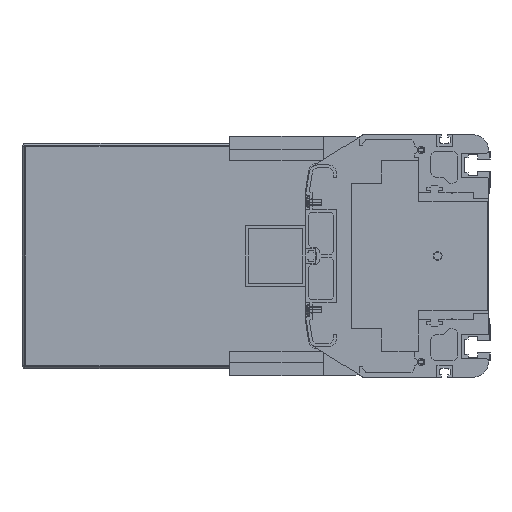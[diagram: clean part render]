
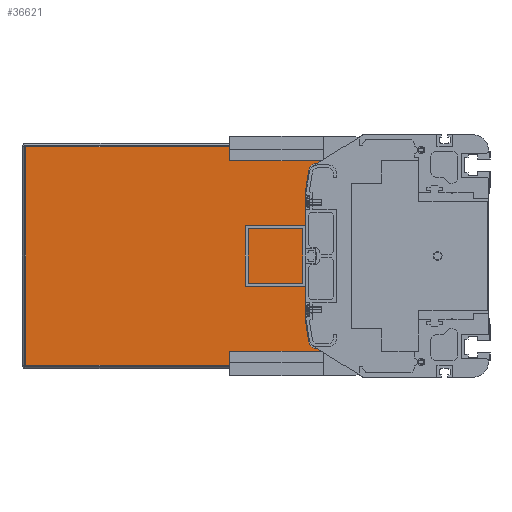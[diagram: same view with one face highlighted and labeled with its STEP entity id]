
A CAD part, left-side view. The second image highlights one B-rep face of the part: STEP entity #36621.
In plain terms, the highlighted planar face has unit normal (-1, 0, 0).
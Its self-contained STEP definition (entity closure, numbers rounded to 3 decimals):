
#3034=DIRECTION('',(0.,0.,-1.));
#3035=VECTOR('',#3034,11.);
#3036=CARTESIAN_POINT('',(3786.5,86.,-61.));
#3037=LINE('',#3036,#3035);
#3043=DIRECTION('',(0.,0.,-1.));
#3044=VECTOR('',#3043,11.);
#3045=CARTESIAN_POINT('',(3786.5,86.,72.));
#3046=LINE('',#3045,#3044);
#3056=DIRECTION('',(0.,-1.,0.));
#3057=VECTOR('',#3056,220.5);
#3058=CARTESIAN_POINT('',(3786.5,306.5,-72.));
#3059=LINE('',#3058,#3057);
#8426=DIRECTION('',(0.,1.,0.));
#8427=VECTOR('',#8426,28.728);
#8428=CARTESIAN_POINT('',(3786.5,86.,-61.));
#8429=LINE('',#8428,#8427);
#14668=DIRECTION('',(0.,-1.,0.));
#14669=VECTOR('',#14668,28.728);
#14670=CARTESIAN_POINT('',(3786.5,114.728,61.));
#14671=LINE('',#14670,#14669);
#14684=DIRECTION('',(0.,0.,1.));
#14685=VECTOR('',#14684,84.);
#14686=CARTESIAN_POINT('',(3786.5,122.,-42.));
#14687=LINE('',#14686,#14685);
#14696=CARTESIAN_POINT('',(3786.5,114.728,56.));
#14697=DIRECTION('',(-1.,0.,0.));
#14698=DIRECTION('',(0.,0.,1.));
#14699=AXIS2_PLACEMENT_3D('',#14696,#14697,#14698);
#14701=DIRECTION('',(0.,0.156,-0.988));
#14702=VECTOR('',#14701,14.963);
#14703=CARTESIAN_POINT('',(3786.5,119.666,56.78));
#14704=LINE('',#14703,#14702);
#14705=DIRECTION('',(0.,-0.156,-0.988));
#14706=VECTOR('',#14705,14.963);
#14707=CARTESIAN_POINT('',(3786.5,122.,-42.));
#14708=LINE('',#14707,#14706);
#14709=CARTESIAN_POINT('',(3786.5,114.728,-56.));
#14710=DIRECTION('',(-1.,0.,0.));
#14711=DIRECTION('',(0.,0.988,-0.156));
#14712=AXIS2_PLACEMENT_3D('',#14709,#14710,#14711);
#14718=DIRECTION('',(0.,0.,-1.));
#14719=VECTOR('',#14718,144.);
#14720=CARTESIAN_POINT('',(3786.5,306.5,72.));
#14721=LINE('',#14720,#14719);
#14887=DIRECTION('',(0.,1.,0.));
#14888=VECTOR('',#14887,220.5);
#14889=CARTESIAN_POINT('',(3786.5,86.,72.));
#14890=LINE('',#14889,#14888);
#18060=CARTESIAN_POINT('',(3786.5,306.5,-72.));
#18061=CARTESIAN_POINT('',(3786.5,86.,-72.));
#18062=VERTEX_POINT('',#18060);
#18063=VERTEX_POINT('',#18061);
#18064=CARTESIAN_POINT('',(3786.5,86.,-61.));
#18065=VERTEX_POINT('',#18064);
#18066=CARTESIAN_POINT('',(3786.5,114.728,-61.));
#18067=VERTEX_POINT('',#18066);
#18068=CARTESIAN_POINT('',(3786.5,119.666,-56.78));
#18069=VERTEX_POINT('',#18068);
#18070=CARTESIAN_POINT('',(3786.5,122.,-42.));
#18071=VERTEX_POINT('',#18070);
#18072=CARTESIAN_POINT('',(3786.5,122.,42.));
#18073=VERTEX_POINT('',#18072);
#18074=CARTESIAN_POINT('',(3786.5,119.666,56.78));
#18075=VERTEX_POINT('',#18074);
#18076=CARTESIAN_POINT('',(3786.5,114.728,61.));
#18077=VERTEX_POINT('',#18076);
#18078=CARTESIAN_POINT('',(3786.5,86.,61.));
#18079=VERTEX_POINT('',#18078);
#18080=CARTESIAN_POINT('',(3786.5,86.,72.));
#18081=VERTEX_POINT('',#18080);
#18082=CARTESIAN_POINT('',(3786.5,306.5,72.));
#18083=VERTEX_POINT('',#18082);
#36598=CARTESIAN_POINT('',(3786.5,196.25,0.));
#36599=DIRECTION('',(1.,0.,0.));
#36600=DIRECTION('',(0.,0.,-1.));
#36601=AXIS2_PLACEMENT_3D('',#36598,#36599,#36600);
#36602=PLANE('',#36601);
#36603=ORIENTED_EDGE('',*,*,#23504,.F.);
#36605=ORIENTED_EDGE('',*,*,#36604,.F.);
#36607=ORIENTED_EDGE('',*,*,#36606,.F.);
#36608=ORIENTED_EDGE('',*,*,#23486,.T.);
#36609=ORIENTED_EDGE('',*,*,#36550,.F.);
#36610=ORIENTED_EDGE('',*,*,#36563,.T.);
#36611=ORIENTED_EDGE('',*,*,#36579,.T.);
#36612=ORIENTED_EDGE('',*,*,#36589,.F.);
#36614=ORIENTED_EDGE('',*,*,#36613,.T.);
#36616=ORIENTED_EDGE('',*,*,#36615,.T.);
#36617=ORIENTED_EDGE('',*,*,#28127,.F.);
#36618=ORIENTED_EDGE('',*,*,#23454,.T.);
#36619=EDGE_LOOP('',(#36603,#36605,#36607,#36608,#36609,#36610,#36611,#36612,
#36614,#36616,#36617,#36618));
#36620=FACE_OUTER_BOUND('',#36619,.F.);
#36621=ADVANCED_FACE('',(#36620),#36602,.F.);
#14700=CIRCLE('',#14699,5.);
#14713=CIRCLE('',#14712,5.);
#23454=EDGE_CURVE('',#18065,#18063,#3037,.T.);
#23486=EDGE_CURVE('',#18081,#18079,#3046,.T.);
#23504=EDGE_CURVE('',#18062,#18063,#3059,.T.);
#28127=EDGE_CURVE('',#18065,#18067,#8429,.T.);
#36550=EDGE_CURVE('',#18077,#18079,#14671,.T.);
#36563=EDGE_CURVE('',#18077,#18075,#14700,.T.);
#36579=EDGE_CURVE('',#18075,#18073,#14704,.T.);
#36589=EDGE_CURVE('',#18071,#18073,#14687,.T.);
#36604=EDGE_CURVE('',#18083,#18062,#14721,.T.);
#36606=EDGE_CURVE('',#18081,#18083,#14890,.T.);
#36613=EDGE_CURVE('',#18071,#18069,#14708,.T.);
#36615=EDGE_CURVE('',#18069,#18067,#14713,.T.);
